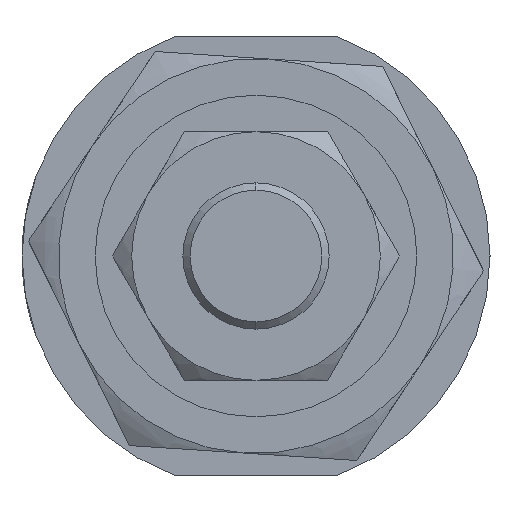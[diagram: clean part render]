
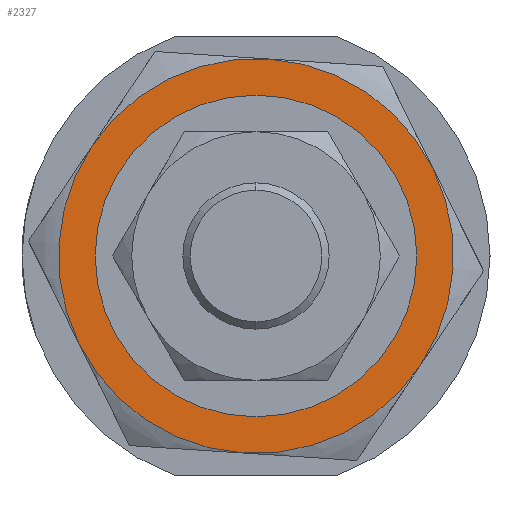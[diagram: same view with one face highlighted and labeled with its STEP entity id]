
A CAD part, left-side view. The second image highlights one B-rep face of the part: STEP entity #2327.
In plain terms, the highlighted planar face has unit normal (-1, 0, 0) as drawn and (0, 0, -1) by its records, which use the part's own axes.
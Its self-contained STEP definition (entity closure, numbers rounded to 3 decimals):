
#1 = CARTESIAN_POINT ( 'NONE',  ( 0., 0., -5. ) ) ;
#8 = DIRECTION ( 'NONE',  ( 1., 0., 0. ) ) ;
#13 = CIRCLE ( 'NONE', #1686, 13.5 ) ;
#25 = VERTEX_POINT ( 'NONE', #866 ) ;
#98 = VERTEX_POINT ( 'NONE', #2226 ) ;
#103 = EDGE_CURVE ( 'NONE', #2495, #335, #13, .T. ) ;
#117 = DIRECTION ( 'NONE',  ( 1., 0., 0. ) ) ;
#189 = CARTESIAN_POINT ( 'NONE',  ( -13.5, 0., -5. ) ) ;
#221 = DIRECTION ( 'NONE',  ( 0., 0., 1. ) ) ;
#251 = DIRECTION ( 'NONE',  ( 1., 0., 0. ) ) ;
#268 = EDGE_CURVE ( 'NONE', #25, #1783, #2481, .T. ) ;
#335 = VERTEX_POINT ( 'NONE', #481 ) ;
#337 = AXIS2_PLACEMENT_3D ( 'NONE', #2009, #2981, #2758 ) ;
#398 = DIRECTION ( 'NONE',  ( 1., 0., 0. ) ) ;
#416 = CARTESIAN_POINT ( 'NONE',  ( 0., 0., -5. ) ) ;
#481 = CARTESIAN_POINT ( 'NONE',  ( -6.75, -11.691, -5. ) ) ;
#505 = DIRECTION ( 'NONE',  ( 0., 0., 1. ) ) ;
#521 = ORIENTED_EDGE ( 'NONE', *, *, #268, .T. ) ;
#526 = CARTESIAN_POINT ( 'NONE',  ( 0., 0., -5. ) ) ;
#532 = ORIENTED_EDGE ( 'NONE', *, *, #2857, .F. ) ;
#538 = CARTESIAN_POINT ( 'NONE',  ( 6.75, 11.691, -5. ) ) ;
#575 = AXIS2_PLACEMENT_3D ( 'NONE', #2656, #221, #3131 ) ;
#597 = AXIS2_PLACEMENT_3D ( 'NONE', #3003, #1251, #1018 ) ;
#647 = EDGE_LOOP ( 'NONE', ( #2456, #521 ) ) ;
#657 = AXIS2_PLACEMENT_3D ( 'NONE', #2273, #1135, #1934 ) ;
#700 = CIRCLE ( 'NONE', #1285, 13.5 ) ;
#770 = DIRECTION ( 'NONE',  ( 0., 0., 1. ) ) ;
#788 = CARTESIAN_POINT ( 'NONE',  ( 6.75, -11.691, -5. ) ) ;
#812 = FACE_BOUND ( 'NONE', #647, .T. ) ;
#866 = CARTESIAN_POINT ( 'NONE',  ( -10., 0., -5. ) ) ;
#978 = AXIS2_PLACEMENT_3D ( 'NONE', #1, #505, #8 ) ;
#1018 = DIRECTION ( 'NONE',  ( 1., 0., 0. ) ) ;
#1019 = ORIENTED_EDGE ( 'NONE', *, *, #103, .F. ) ;
#1135 = DIRECTION ( 'NONE',  ( 0., 0., 1. ) ) ;
#1149 = ORIENTED_EDGE ( 'NONE', *, *, #1664, .F. ) ;
#1218 = CIRCLE ( 'NONE', #978, 13.5 ) ;
#1251 = DIRECTION ( 'NONE',  ( 0., 0., 1. ) ) ;
#1285 = AXIS2_PLACEMENT_3D ( 'NONE', #2049, #1567, #117 ) ;
#1460 = ORIENTED_EDGE ( 'NONE', *, *, #1501, .F. ) ;
#1470 = VERTEX_POINT ( 'NONE', #788 ) ;
#1501 = EDGE_CURVE ( 'NONE', #1470, #98, #1911, .T. ) ;
#1523 = DIRECTION ( 'NONE',  ( 1., 0., 0. ) ) ;
#1567 = DIRECTION ( 'NONE',  ( 0., 0., 1. ) ) ;
#1595 = EDGE_CURVE ( 'NONE', #98, #2657, #1847, .T. ) ;
#1664 = EDGE_CURVE ( 'NONE', #2195, #2495, #2070, .T. ) ;
#1686 = AXIS2_PLACEMENT_3D ( 'NONE', #526, #770, #251 ) ;
#1783 = VERTEX_POINT ( 'NONE', #1914 ) ;
#1817 = CARTESIAN_POINT ( 'NONE',  ( -6.75, 11.691, -5. ) ) ;
#1841 = DIRECTION ( 'NONE',  ( 0., 0., 1. ) ) ;
#1847 = CIRCLE ( 'NONE', #657, 13.5 ) ;
#1911 = CIRCLE ( 'NONE', #597, 13.5 ) ;
#1914 = CARTESIAN_POINT ( 'NONE',  ( 10., 0., -5. ) ) ;
#1934 = DIRECTION ( 'NONE',  ( 1., 0., 0. ) ) ;
#1935 = EDGE_CURVE ( 'NONE', #2657, #2195, #1218, .T. ) ;
#1942 = FACE_OUTER_BOUND ( 'NONE', #2276, .T. ) ;
#2009 = CARTESIAN_POINT ( 'NONE',  ( 0., 0., -5. ) ) ;
#2049 = CARTESIAN_POINT ( 'NONE',  ( 0., 0., -5. ) ) ;
#2055 = EDGE_CURVE ( 'NONE', #1783, #25, #2106, .T. ) ;
#2070 = CIRCLE ( 'NONE', #2288, 13.5 ) ;
#2087 = ORIENTED_EDGE ( 'NONE', *, *, #1595, .F. ) ;
#2106 = CIRCLE ( 'NONE', #337, 10. ) ;
#2195 = VERTEX_POINT ( 'NONE', #1817 ) ;
#2226 = CARTESIAN_POINT ( 'NONE',  ( 13.5, 0., -5. ) ) ;
#2273 = CARTESIAN_POINT ( 'NONE',  ( 0., 0., -5. ) ) ;
#2276 = EDGE_LOOP ( 'NONE', ( #2087, #1460, #532, #1019, #1149, #2357 ) ) ;
#2288 = AXIS2_PLACEMENT_3D ( 'NONE', #416, #1841, #398 ) ;
#2327 = ADVANCED_FACE ( 'NONE', ( #812, #1942 ), #2996, .F. ) ;
#2357 = ORIENTED_EDGE ( 'NONE', *, *, #1935, .F. ) ;
#2456 = ORIENTED_EDGE ( 'NONE', *, *, #2055, .T. ) ;
#2481 = CIRCLE ( 'NONE', #575, 10. ) ;
#2495 = VERTEX_POINT ( 'NONE', #189 ) ;
#2526 = CARTESIAN_POINT ( 'NONE',  ( 0., 0., -5. ) ) ;
#2656 = CARTESIAN_POINT ( 'NONE',  ( 0., 0., -5. ) ) ;
#2657 = VERTEX_POINT ( 'NONE', #538 ) ;
#2758 = DIRECTION ( 'NONE',  ( 1., 0., 0. ) ) ;
#2770 = DIRECTION ( 'NONE',  ( 0., 0., 1. ) ) ;
#2857 = EDGE_CURVE ( 'NONE', #335, #1470, #700, .T. ) ;
#2981 = DIRECTION ( 'NONE',  ( 0., 0., 1. ) ) ;
#2996 = PLANE ( 'NONE',  #3128 ) ;
#3003 = CARTESIAN_POINT ( 'NONE',  ( 0., 0., -5. ) ) ;
#3128 = AXIS2_PLACEMENT_3D ( 'NONE', #2526, #2770, #1523 ) ;
#3131 = DIRECTION ( 'NONE',  ( 1., 0., 0. ) ) ;
